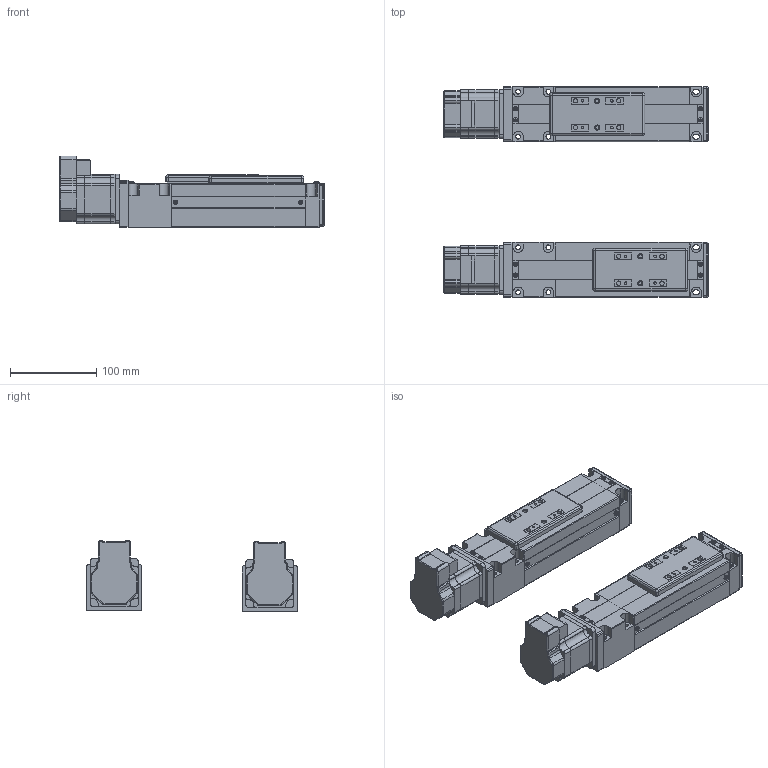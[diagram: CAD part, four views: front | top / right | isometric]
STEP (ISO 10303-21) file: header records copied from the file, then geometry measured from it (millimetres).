
FILE_DESCRIPTION(('STEP AP214'),'1');
FILE_NAME('F:\外形図\3D_DAD2\SCLT6\SCLT6_B\tmp0.step',' ',(' '),(' '),'XStep 1.0',' ',' ');
FILE_SCHEMA(('automotive_design'));
Length unit declared in the file: millimetre
Bounding box: 306 x 244 x 83 mm (x, y, z)
Volume: 1997715.5 mm3; surface area: 401041.7 mm2
Topology: 48 solids, 48 shells, 2140 faces, 5850 edges, 3836 vertices
Faces by surface type: plane 1682, cylinder 368, bspline 66, sphere 16, cone 8
Entity records: 86735 total; most frequent: CARTESIAN_POINT 13744, ORIENTED_EDGE 11668, DIRECTION 10934, EDGE_CURVE 5834, LINE 4978, VECTOR 4978, VERTEX_POINT 3836, AXIS2_PLACEMENT_3D 2978
